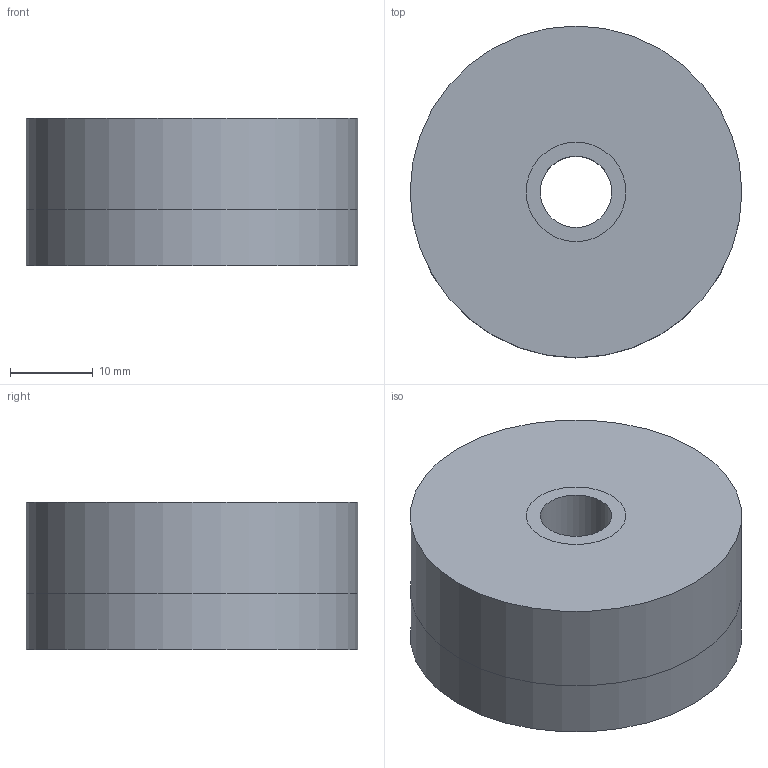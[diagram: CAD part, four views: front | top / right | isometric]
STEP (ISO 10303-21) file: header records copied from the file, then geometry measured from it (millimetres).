
FILE_DESCRIPTION(('Open CASCADE Model'),'2;1');
FILE_NAME('iPower_GM3506_gimbal_motor','2026-09-04T00:01:42',('Author'), ('Open CASCADE'),'Open CASCADE STEP processor 7.9','build123d', 'Unknown');
FILE_SCHEMA(('AUTOMOTIVE_DESIGN { 1 0 10303 214 1 1 1 1 }'));
Length unit declared in the file: millimetre
Products named in the file (4): iPower_GM3506_gimbal_motor; stationary_base_ENVELOPE; rotor_bell_DRIVE_SURFACE; hollow_shaft
Assembly tree (3 placements, depth 2):
  iPower_GM3506_gimbal_motor
    stationary_base_ENVELOPE
    rotor_bell_DRIVE_SURFACE
    hollow_shaft
Bounding box: 40 x 40 x 17.8 mm (x, y, z)
Volume: 21334.2 mm3; surface area: 8744 mm2
Topology: 3 solids, 3 shells, 12 faces, 18 edges, 12 vertices
Faces by surface type: cylinder 6, plane 6
Full cylindrical faces by diameter (mm): 8.6 x1, 12 x3, 40 x2
Entity records: 346 total; most frequent: DIRECTION 62, CARTESIAN_POINT 46, ORIENTED_EDGE 36, AXIS2_PLACEMENT_3D 28, FACE_BOUND 18, EDGE_LOOP 18, EDGE_CURVE 18, ADVANCED_FACE 12
